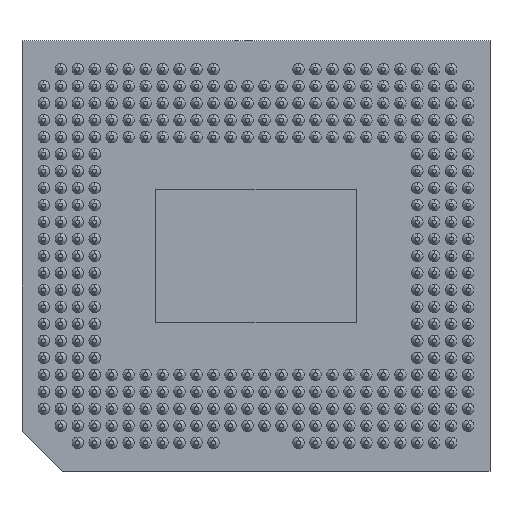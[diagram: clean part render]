
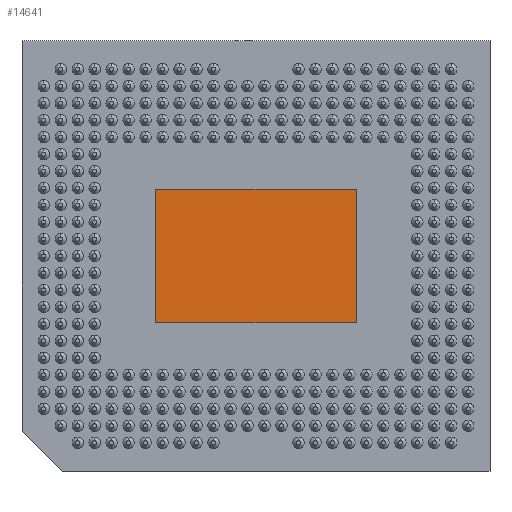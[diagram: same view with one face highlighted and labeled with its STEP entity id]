
A CAD part, front view. The second image highlights one B-rep face of the part: STEP entity #14641.
In plain terms, the highlighted planar face has unit normal (0, -1, 0) as drawn and (0, 0, -1) by its records, which use the part's own axes.
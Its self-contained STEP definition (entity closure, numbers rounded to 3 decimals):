
#724 = VERTEX_POINT ( 'NONE', #71987 ) ;
#3114 = CARTESIAN_POINT ( 'NONE',  ( -3.5, 6.5, 0. ) ) ;
#4074 = ORIENTED_EDGE ( 'NONE', *, *, #54102, .F. ) ;
#5343 = DIRECTION ( 'NONE',  ( 0., 1., 0. ) ) ;
#5356 = VERTEX_POINT ( 'NONE', #71104 ) ;
#6089 = LINE ( 'NONE', #38868, #58111 ) ;
#8685 = EDGE_CURVE ( 'NONE', #60023, #724, #63821, .T. ) ;
#11450 = DIRECTION ( 'NONE',  ( -1., 0., 0. ) ) ;
#14641 = ADVANCED_FACE ( 'NONE', ( #24028 ), #58094, .F. ) ;
#15965 = VERTEX_POINT ( 'NONE', #37643 ) ;
#23275 = DIRECTION ( 'NONE',  ( 1., 0., 0. ) ) ;
#24028 = FACE_OUTER_BOUND ( 'NONE', #31935, .T. ) ;
#24270 = LINE ( 'NONE', #40794, #67347 ) ;
#29936 = CARTESIAN_POINT ( 'NONE',  ( -3.5, 6.5, 0. ) ) ;
#31082 = ORIENTED_EDGE ( 'NONE', *, *, #72002, .F. ) ;
#31935 = EDGE_LOOP ( 'NONE', ( #49655, #4074, #31082, #35441 ) ) ;
#35441 = ORIENTED_EDGE ( 'NONE', *, *, #43978, .F. ) ;
#37643 = CARTESIAN_POINT ( 'NONE',  ( 11.5, -3.5, 0. ) ) ;
#38868 = CARTESIAN_POINT ( 'NONE',  ( 11.5, -3.5, 0. ) ) ;
#40794 = CARTESIAN_POINT ( 'NONE',  ( -3.5, -3.5, 0. ) ) ;
#41489 = DIRECTION ( 'NONE',  ( 1., 0., 0. ) ) ;
#43328 = LINE ( 'NONE', #62404, #67519 ) ;
#43978 = EDGE_CURVE ( 'NONE', #724, #15965, #24270, .T. ) ;
#49655 = ORIENTED_EDGE ( 'NONE', *, *, #8685, .F. ) ;
#53047 = CARTESIAN_POINT ( 'NONE',  ( 0., 0., 0. ) ) ;
#53293 = DIRECTION ( 'NONE',  ( 0., 0., 1. ) ) ;
#53802 = AXIS2_PLACEMENT_3D ( 'NONE', #53047, #53293, #41489 ) ;
#54102 = EDGE_CURVE ( 'NONE', #5356, #60023, #43328, .T. ) ;
#58094 = PLANE ( 'NONE',  #53802 ) ;
#58111 = VECTOR ( 'NONE', #5343, 1000. ) ;
#60023 = VERTEX_POINT ( 'NONE', #3114 ) ;
#62404 = CARTESIAN_POINT ( 'NONE',  ( 11.5, 6.5, 0. ) ) ;
#63821 = LINE ( 'NONE', #29936, #70056 ) ;
#67347 = VECTOR ( 'NONE', #23275, 1000. ) ;
#67519 = VECTOR ( 'NONE', #11450, 1000. ) ;
#70032 = DIRECTION ( 'NONE',  ( 0., -1., 0. ) ) ;
#70056 = VECTOR ( 'NONE', #70032, 1000. ) ;
#71104 = CARTESIAN_POINT ( 'NONE',  ( 11.5, 6.5, 0. ) ) ;
#71987 = CARTESIAN_POINT ( 'NONE',  ( -3.5, -3.5, 0. ) ) ;
#72002 = EDGE_CURVE ( 'NONE', #15965, #5356, #6089, .T. ) ;
